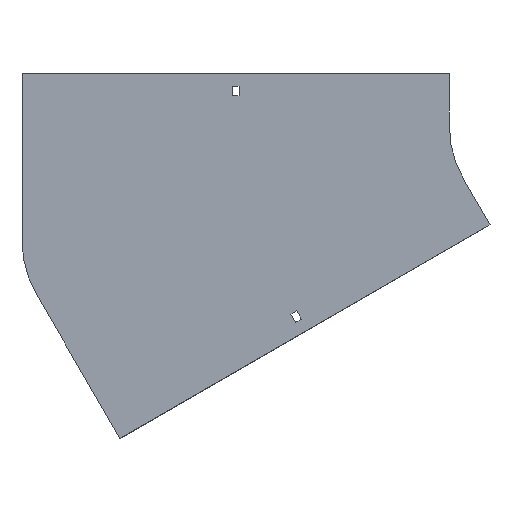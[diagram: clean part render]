
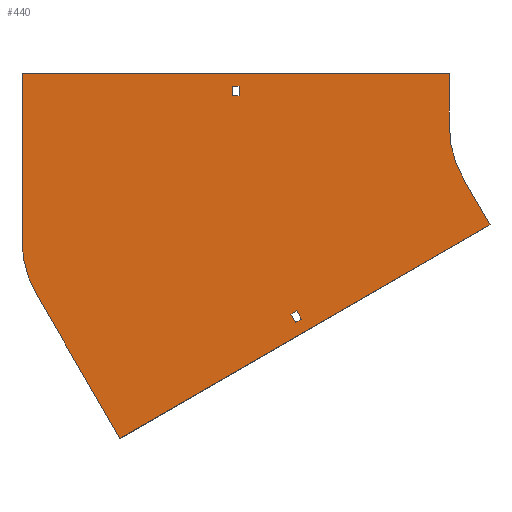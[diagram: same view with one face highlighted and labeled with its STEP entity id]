
A CAD part, front view. The second image highlights one B-rep face of the part: STEP entity #440.
In plain terms, the highlighted planar face has unit normal (0, -1, 0).
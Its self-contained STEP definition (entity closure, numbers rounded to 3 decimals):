
#14 = DIRECTION ( 'NONE',  ( -0.866, 0., -0.5 ) ) ;
#22 = FACE_BOUND ( 'NONE', #386, .T. ) ;
#29 = DIRECTION ( 'NONE',  ( -0.5, 0., 0.866 ) ) ;
#30 = DIRECTION ( 'NONE',  ( 0., 0., -1. ) ) ;
#31 = VECTOR ( 'NONE', #869, 1000. ) ;
#41 = VERTEX_POINT ( 'NONE', #1110 ) ;
#54 = CIRCLE ( 'NONE', #837, 100. ) ;
#57 = CIRCLE ( 'NONE', #147, 100. ) ;
#58 = LINE ( 'NONE', #409, #446 ) ;
#64 = CARTESIAN_POINT ( 'NONE',  ( -411.477, 0., -295.301 ) ) ;
#83 = VERTEX_POINT ( 'NONE', #976 ) ;
#85 = LINE ( 'NONE', #135, #1301 ) ;
#86 = ORIENTED_EDGE ( 'NONE', *, *, #118, .F. ) ;
#98 = DIRECTION ( 'NONE',  ( 0., 0., -1. ) ) ;
#101 = LINE ( 'NONE', #325, #171 ) ;
#105 = ORIENTED_EDGE ( 'NONE', *, *, #389, .F. ) ;
#118 = EDGE_CURVE ( 'NONE', #432, #41, #574, .T. ) ;
#129 = LINE ( 'NONE', #1119, #323 ) ;
#131 = VERTEX_POINT ( 'NONE', #213 ) ;
#135 = CARTESIAN_POINT ( 'NONE',  ( -411.477, 0., -295.301 ) ) ;
#137 = DIRECTION ( 'NONE',  ( 0., -1., 0. ) ) ;
#138 = EDGE_CURVE ( 'NONE', #493, #812, #338, .T. ) ;
#139 = CARTESIAN_POINT ( 'NONE',  ( -245.354, 0., -185.534 ) ) ;
#147 = AXIS2_PLACEMENT_3D ( 'NONE', #860, #638, #98 ) ;
#151 = CARTESIAN_POINT ( 'NONE',  ( -490.603, 0., -158.251 ) ) ;
#153 = CARTESIAN_POINT ( 'NONE',  ( -404., 0., -108.251 ) ) ;
#171 = VECTOR ( 'NONE', #726, 1000. ) ;
#172 = VECTOR ( 'NONE', #1210, 1000. ) ;
#173 = ORIENTED_EDGE ( 'NONE', *, *, #293, .F. ) ;
#185 = VERTEX_POINT ( 'NONE', #1314 ) ;
#194 = ORIENTED_EDGE ( 'NONE', *, *, #1189, .F. ) ;
#199 = EDGE_LOOP ( 'NONE', ( #686, #220, #1253, #223, #523, #173, #194, #86 ) ) ;
#207 = CARTESIAN_POINT ( 'NONE',  ( -245.354, 0., -185.534 ) ) ;
#213 = CARTESIAN_POINT ( 'NONE',  ( -244.225, 0., -174.49 ) ) ;
#220 = ORIENTED_EDGE ( 'NONE', *, *, #1260, .F. ) ;
#223 = ORIENTED_EDGE ( 'NONE', *, *, #1230, .F. ) ;
#230 = EDGE_CURVE ( 'NONE', #1278, #432, #1320, .T. ) ;
#233 = LINE ( 'NONE', #559, #703 ) ;
#250 = LINE ( 'NONE', #139, #172 ) ;
#255 = LINE ( 'NONE', #674, #31 ) ;
#271 = PLANE ( 'NONE',  #787 ) ;
#273 = VERTEX_POINT ( 'NONE', #504 ) ;
#286 = VERTEX_POINT ( 'NONE', #151 ) ;
#293 = EDGE_CURVE ( 'NONE', #273, #618, #901, .T. ) ;
#323 = VECTOR ( 'NONE', #891, 1000. ) ;
#325 = CARTESIAN_POINT ( 'NONE',  ( -61.603, 0., -93.301 ) ) ;
#326 = EDGE_CURVE ( 'NONE', #735, #631, #1107, .T. ) ;
#338 = LINE ( 'NONE', #771, #822 ) ;
#342 = CARTESIAN_POINT ( 'NONE',  ( -61.603, 0., -93.301 ) ) ;
#345 = LINE ( 'NONE', #990, #377 ) ;
#357 = DIRECTION ( 'NONE',  ( 1., 0., 0. ) ) ;
#369 = DIRECTION ( 'NONE',  ( 0., 0., 1. ) ) ;
#371 = DIRECTION ( 'NONE',  ( 0., 0., -1. ) ) ;
#377 = VECTOR ( 'NONE', #569, 1000. ) ;
#386 = EDGE_LOOP ( 'NONE', ( #518, #402, #1180, #1045 ) ) ;
#389 = EDGE_CURVE ( 'NONE', #1165, #131, #129, .T. ) ;
#399 = CARTESIAN_POINT ( 'NONE',  ( -249.854, 0., -177.74 ) ) ;
#402 = ORIENTED_EDGE ( 'NONE', *, *, #865, .T. ) ;
#409 = CARTESIAN_POINT ( 'NONE',  ( -305.25, 0., 29. ) ) ;
#432 = VERTEX_POINT ( 'NONE', #774 ) ;
#440 = ADVANCED_FACE ( 'NONE', ( #22, #462, #884 ), #271, .T. ) ;
#445 = VERTEX_POINT ( 'NONE', #790 ) ;
#446 = VECTOR ( 'NONE', #938, 1000. ) ;
#462 = FACE_OUTER_BOUND ( 'NONE', #199, .T. ) ;
#493 = VERTEX_POINT ( 'NONE', #399 ) ;
#504 = CARTESIAN_POINT ( 'NONE',  ( -86.603, 0., -50. ) ) ;
#518 = ORIENTED_EDGE ( 'NONE', *, *, #1067, .T. ) ;
#523 = ORIENTED_EDGE ( 'NONE', *, *, #767, .F. ) ;
#559 = CARTESIAN_POINT ( 'NONE',  ( -249.854, 0., -177.74 ) ) ;
#568 = EDGE_CURVE ( 'NONE', #185, #735, #1358, .T. ) ;
#569 = DIRECTION ( 'NONE',  ( 1., 0., 0. ) ) ;
#574 = LINE ( 'NONE', #998, #1219 ) ;
#590 = CARTESIAN_POINT ( 'NONE',  ( -86.603, 0., -50. ) ) ;
#618 = VERTEX_POINT ( 'NONE', #342 ) ;
#631 = VERTEX_POINT ( 'NONE', #1309 ) ;
#638 = DIRECTION ( 'NONE',  ( 0., -1., 0. ) ) ;
#661 = VECTOR ( 'NONE', #1144, 1000. ) ;
#674 = CARTESIAN_POINT ( 'NONE',  ( -504., 0., -108.251 ) ) ;
#686 = ORIENTED_EDGE ( 'NONE', *, *, #230, .F. ) ;
#703 = VECTOR ( 'NONE', #14, 1000. ) ;
#710 = CARTESIAN_POINT ( 'NONE',  ( -239.725, 0., -182.284 ) ) ;
#711 = ORIENTED_EDGE ( 'NONE', *, *, #872, .F. ) ;
#718 = VECTOR ( 'NONE', #1131, 1000. ) ;
#726 = DIRECTION ( 'NONE',  ( -0.866, 0., -0.5 ) ) ;
#732 = VECTOR ( 'NONE', #1340, 1000. ) ;
#735 = VERTEX_POINT ( 'NONE', #948 ) ;
#767 = EDGE_CURVE ( 'NONE', #618, #1112, #101, .T. ) ;
#771 = CARTESIAN_POINT ( 'NONE',  ( -249.854, 0., -177.74 ) ) ;
#774 = CARTESIAN_POINT ( 'NONE',  ( -100., 0., 50. ) ) ;
#787 = AXIS2_PLACEMENT_3D ( 'NONE', #1344, #137, #371 ) ;
#790 = CARTESIAN_POINT ( 'NONE',  ( -305.25, 0., 38. ) ) ;
#812 = VERTEX_POINT ( 'NONE', #207 ) ;
#822 = VECTOR ( 'NONE', #996, 1000. ) ;
#837 = AXIS2_PLACEMENT_3D ( 'NONE', #153, #1333, #369 ) ;
#850 = EDGE_CURVE ( 'NONE', #812, #1165, #250, .T. ) ;
#860 = CARTESIAN_POINT ( 'NONE',  ( 0., 0., 0. ) ) ;
#865 = EDGE_CURVE ( 'NONE', #445, #185, #345, .T. ) ;
#869 = DIRECTION ( 'NONE',  ( 0., 0., 1. ) ) ;
#872 = EDGE_CURVE ( 'NONE', #131, #493, #233, .T. ) ;
#884 = FACE_BOUND ( 'NONE', #1057, .T. ) ;
#891 = DIRECTION ( 'NONE',  ( -0.5, 0., 0.866 ) ) ;
#901 = LINE ( 'NONE', #590, #732 ) ;
#938 = DIRECTION ( 'NONE',  ( 0., 0., 1. ) ) ;
#948 = CARTESIAN_POINT ( 'NONE',  ( -298.75, 0., 29. ) ) ;
#952 = ORIENTED_EDGE ( 'NONE', *, *, #138, .F. ) ;
#976 = CARTESIAN_POINT ( 'NONE',  ( -504., 0., -108.251 ) ) ;
#990 = CARTESIAN_POINT ( 'NONE',  ( -305.25, 0., 38. ) ) ;
#996 = DIRECTION ( 'NONE',  ( 0.5, 0., -0.866 ) ) ;
#998 = CARTESIAN_POINT ( 'NONE',  ( -100., 0., 50. ) ) ;
#1026 = EDGE_CURVE ( 'NONE', #286, #83, #54, .T. ) ;
#1045 = ORIENTED_EDGE ( 'NONE', *, *, #326, .T. ) ;
#1057 = EDGE_LOOP ( 'NONE', ( #1264, #952, #711, #105 ) ) ;
#1067 = EDGE_CURVE ( 'NONE', #631, #445, #58, .T. ) ;
#1107 = LINE ( 'NONE', #1332, #718 ) ;
#1110 = CARTESIAN_POINT ( 'NONE',  ( -100., 0., 0. ) ) ;
#1112 = VERTEX_POINT ( 'NONE', #64 ) ;
#1119 = CARTESIAN_POINT ( 'NONE',  ( -244.225, 0., -174.49 ) ) ;
#1131 = DIRECTION ( 'NONE',  ( -1., 0., 0. ) ) ;
#1144 = DIRECTION ( 'NONE',  ( 0., 0., -1. ) ) ;
#1151 = VECTOR ( 'NONE', #357, 1000. ) ;
#1165 = VERTEX_POINT ( 'NONE', #710 ) ;
#1180 = ORIENTED_EDGE ( 'NONE', *, *, #568, .T. ) ;
#1189 = EDGE_CURVE ( 'NONE', #41, #273, #57, .T. ) ;
#1202 = CARTESIAN_POINT ( 'NONE',  ( -504., 0., 50. ) ) ;
#1210 = DIRECTION ( 'NONE',  ( 0.866, 0., 0.5 ) ) ;
#1219 = VECTOR ( 'NONE', #30, 1000. ) ;
#1230 = EDGE_CURVE ( 'NONE', #1112, #286, #85, .T. ) ;
#1252 = CARTESIAN_POINT ( 'NONE',  ( -298.75, 0., 29. ) ) ;
#1253 = ORIENTED_EDGE ( 'NONE', *, *, #1026, .F. ) ;
#1260 = EDGE_CURVE ( 'NONE', #83, #1278, #255, .T. ) ;
#1264 = ORIENTED_EDGE ( 'NONE', *, *, #850, .F. ) ;
#1278 = VERTEX_POINT ( 'NONE', #1202 ) ;
#1301 = VECTOR ( 'NONE', #29, 1000. ) ;
#1307 = CARTESIAN_POINT ( 'NONE',  ( -504., 0., 50. ) ) ;
#1309 = CARTESIAN_POINT ( 'NONE',  ( -305.25, 0., 29. ) ) ;
#1314 = CARTESIAN_POINT ( 'NONE',  ( -298.75, 0., 38. ) ) ;
#1320 = LINE ( 'NONE', #1307, #1151 ) ;
#1332 = CARTESIAN_POINT ( 'NONE',  ( -305.25, 0., 29. ) ) ;
#1333 = DIRECTION ( 'NONE',  ( 0., 1., 0. ) ) ;
#1340 = DIRECTION ( 'NONE',  ( 0.5, 0., -0.866 ) ) ;
#1344 = CARTESIAN_POINT ( 'NONE',  ( 0., 0., 0. ) ) ;
#1358 = LINE ( 'NONE', #1252, #661 ) ;
